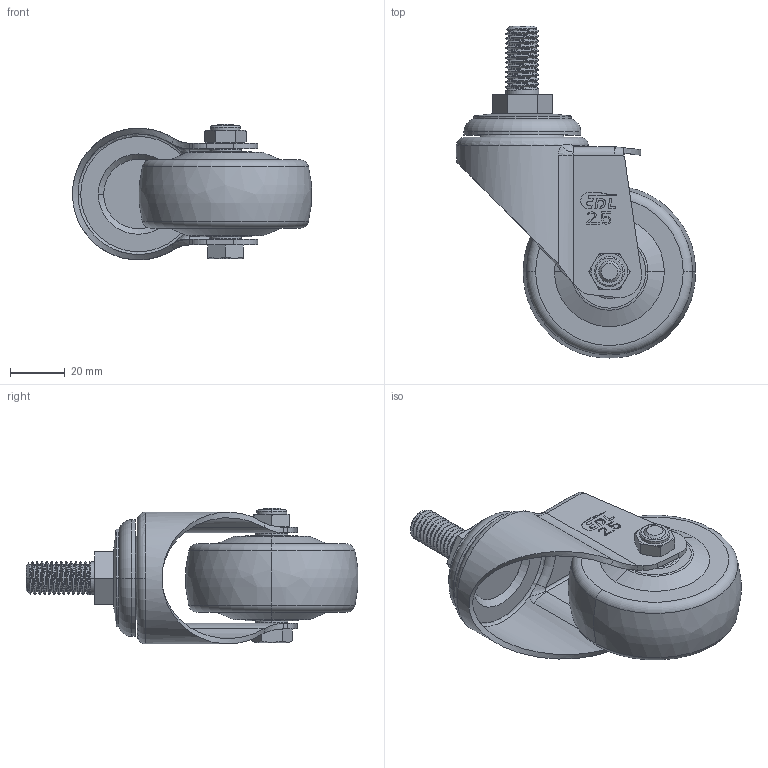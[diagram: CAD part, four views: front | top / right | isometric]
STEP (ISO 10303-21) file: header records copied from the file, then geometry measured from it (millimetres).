
FILE_DESCRIPTION((''),'2;1');
FILE_NAME('S347325_ASM','2021-07-24T',('lenovo'),(''),'PRO/ENGINEER BY PARAMETRIC TECHNOLOGY CORPORATION, 2010280','PRO/ENGINEER BY PARAMETRIC TECHNOLOGY CORPORATION, 2010280','');
FILE_SCHEMA(('CONFIG_CONTROL_DESIGN'));
Length unit declared in the file: millimetre
Products named in the file (6): S340-23; S3425-11; 3625-964; S340-33; S340-34; S347325_ASM
Assembly tree (5 placements, depth 2):
  S347325_ASM
    S340-23
    S3425-11
    3625-964
    S340-33
    S340-34
Bounding box: 87.06 x 120.86 x 49.48 mm (x, y, z)
Volume: 108662.5 mm3; surface area: 33227.1 mm2
Topology: 5 solids, 5 shells, 329 faces, 836 edges, 534 vertices
Faces by surface type: plane 162, cylinder 79, torus 30, bspline 28, cone 26, sphere 4
Entity records: 14827 total; most frequent: CARTESIAN_POINT 6948, ORIENTED_EDGE 1672, DIRECTION 1508, EDGE_CURVE 836, VERTEX_POINT 534, AXIS2_PLACEMENT_3D 508, VECTOR 492, LINE 492
